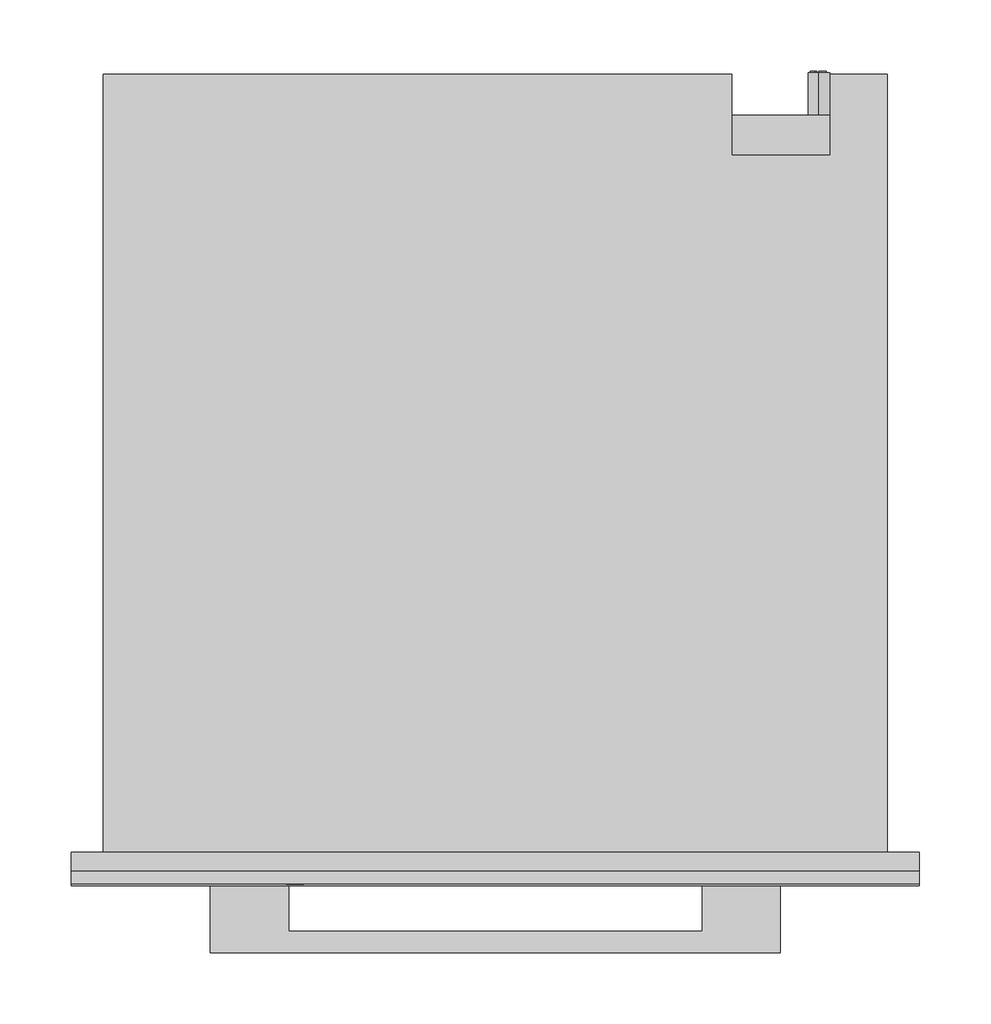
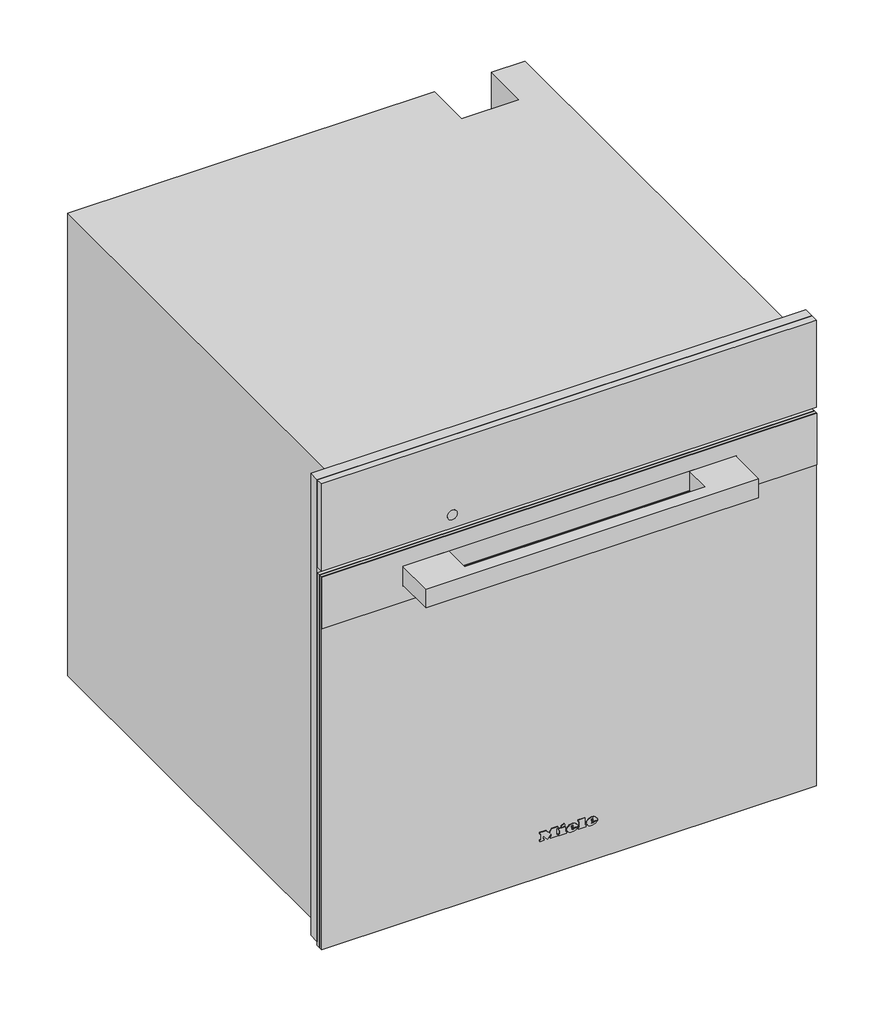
# Not in any storey: 1 proxy.
"""IFC4 building model written with IfcOpenShell, lengths in millimetres."""

import ifcopenshell
import ifcopenshell.guid

model = None  # the IFC model being written
_history = None  # IfcOwnerHistory: only IFC2X3 demands one
_inside = {}  # id of a spatial element -> (the spatial element, [elements in it])
_under = {}  # id of a project, library or spatial element -> (it, [spatial elements below it])
_declared = {}  # id of a project -> (the project, [libraries it declares])
_typed = {}  # id of a type object -> (the type object, [elements of that type])
_made_of = {}  # id of a material, layer set ... -> (it, [elements and type objects made of it])


def new_model(schema):
    """Start an empty IFC model of exactly this schema.

    Asked for "IFC4X3", IfcOpenShell would pick the latest addendum, in which some entities
    have other attributes; the version numbers below select the first issue.
    IFC2X3 requires an IfcOwnerHistory on every rooted entity: one is made here for all.
    """
    global model, _history
    if schema == "IFC4X3":
        model = ifcopenshell.file(schema_version=(4, 3, 0, 0))
    else:
        model = ifcopenshell.file(schema=schema)
    _inside.clear()
    _under.clear()
    _declared.clear()
    _typed.clear()
    _made_of.clear()
    _history = None
    if model.schema == "IFC2X3":
        org = make("IfcOrganization", Name="unknown")
        user = make(
            "IfcPersonAndOrganization",
            ThePerson=make("IfcPerson", FamilyName="unknown"),
            TheOrganization=org,
        )
        app = make(
            "IfcApplication",
            ApplicationDeveloper=org,
            Version="unknown",
            ApplicationFullName="unknown",
            ApplicationIdentifier="unknown",
        )
        _history = make(
            "IfcOwnerHistory",
            OwningUser=user,
            OwningApplication=app,
            ChangeAction="ADDED",
            CreationDate=0,
        )
    return model


def make(cls, **values):
    """One entity of the class cls with the attributes given. An attribute that is None is left unset."""
    return model.create_entity(
        cls, **{name: value for name, value in values.items() if value is not None}
    )


def rooted(cls, **values):
    """An entity with a GlobalId (a new one), such as an element, a storey or a relation."""
    return make(cls, GlobalId=ifcopenshell.guid.new(), OwnerHistory=_history, **values)


def si_unit(unit_type, name, prefix=None):
    """IfcSIUnit, for example si_unit("LENGTHUNIT", "METRE", prefix="MILLI")."""
    return make("IfcSIUnit", UnitType=unit_type, Prefix=prefix, Name=name)


def assignment(units):
    """IfcUnitAssignment: the units of a project."""
    return None if units is None else make("IfcUnitAssignment", Units=units)


def point(xyz):
    """IfcCartesianPoint."""
    return None if xyz is None else make("IfcCartesianPoint", Coordinates=xyz)


def direction(xyz):
    """IfcDirection."""
    return None if xyz is None else make("IfcDirection", DirectionRatios=xyz)


def frame(location, z_axis=None, x_axis=None):
    """IfcAxis2Placement3D, a coordinate frame: its origin and axes. An axis left out is left unset."""
    return make(
        "IfcAxis2Placement3D",
        Location=point(location),
        Axis=direction(z_axis),
        RefDirection=direction(x_axis),
    )


def frame_2d(location, x_axis=None):
    """IfcAxis2Placement2D, a coordinate frame in the plane: its origin and x axis."""
    return make(
        "IfcAxis2Placement2D", Location=point(location), RefDirection=direction(x_axis)
    )


def origin():
    """The frame at (0, 0, 0) with its axes left unset."""
    return frame((0.0, 0.0, 0.0))


def place(relative_to, where):
    """IfcLocalPlacement: puts the frame where relative to a parent placement (None: the world)."""
    return make(
        "IfcLocalPlacement", PlacementRelTo=relative_to, RelativePlacement=where
    )


def context(
    kind, dimensions, precision=None, world=None, true_north=None, identifier=None
):
    """IfcGeometricRepresentationContext, for example the 3D "Model" context."""
    return make(
        "IfcGeometricRepresentationContext",
        ContextIdentifier=identifier,
        ContextType=kind,
        CoordinateSpaceDimension=dimensions,
        Precision=precision,
        WorldCoordinateSystem=world,
        TrueNorth=true_north,
    )


def project(units=None, contexts=None):
    """IfcProject with its units and contexts."""
    return rooted(
        "IfcProject",
        Name="project",
        RepresentationContexts=contexts,
        UnitsInContext=assignment(units),
    )


def spatial(cls, under=None, at=None, **own):
    """A site, building, storey or space (cls), placed at a placement, below another one or the project."""
    s = rooted(cls, ObjectPlacement=at, **own)
    if under is not None:
        _under.setdefault(under.id(), (under, []))[1].append(s)
    return s


def polyline(points):
    """IfcPolyline through the points."""
    return make("IfcPolyline", Points=[point(p) for p in points])


def circle_curve(where, radius):
    """IfcCircle in the frame where."""
    return make("IfcCircle", Position=where, Radius=radius)


def ellipse_curve(where, semi_axis1, semi_axis2):
    """IfcEllipse in the frame where."""
    return make(
        "IfcEllipse", Position=where, SemiAxis1=semi_axis1, SemiAxis2=semi_axis2
    )


def trimmed(basis, trim1, trim2, sense, master):
    """IfcTrimmedCurve: the piece of a basis curve between two trims."""
    return make(
        "IfcTrimmedCurve",
        BasisCurve=basis,
        Trim1=trim1,
        Trim2=trim2,
        SenseAgreement=sense,
        MasterRepresentation=master,
    )


def segment(curve, same_sense, transition):
    """IfcCompositeCurveSegment."""
    return make(
        "IfcCompositeCurveSegment",
        Transition=transition,
        SameSense=same_sense,
        ParentCurve=curve,
    )


def composite_curve(segments, self_intersect=None):
    """IfcCompositeCurve: segments joined end to end."""
    return make("IfcCompositeCurve", Segments=segments, SelfIntersect=self_intersect)


def outline(outer, holes=None, kind="AREA"):
    """IfcArbitraryClosedProfileDef: a profile drawn as a closed curve; with holes, ...WithVoids."""
    if holes is None:
        return make("IfcArbitraryClosedProfileDef", ProfileType=kind, OuterCurve=outer)
    return make(
        "IfcArbitraryProfileDefWithVoids",
        ProfileType=kind,
        OuterCurve=outer,
        InnerCurves=holes,
    )


def extrude(swept, where, along, depth):
    """IfcExtrudedAreaSolid: the profile swept, set in the frame where, extruded along a direction by depth."""
    return make(
        "IfcExtrudedAreaSolid",
        SweptArea=swept,
        Position=where,
        ExtrudedDirection=direction(along),
        Depth=depth,
    )


def faces_of(points, faces, orient=None, outer=None):
    """IfcFace entities. A face is a list of loops; a loop is a list of indices into points, from 0.

    orient and outer hold one flag for each loop. By default every Orientation is true, the
    first loop of a face is its IfcFaceOuterBound and the others are IfcFaceBound.
    """
    made = []
    for i, loops in enumerate(faces):
        bounds = []
        for j, loop in enumerate(loops):
            is_outer = j == 0 if outer is None else outer[i][j]
            bounds.append(
                make(
                    "IfcFaceOuterBound" if is_outer else "IfcFaceBound",
                    Bound=make("IfcPolyLoop", Polygon=[points[k] for k in loop]),
                    Orientation=True if orient is None else orient[i][j],
                )
            )
        made.append(make("IfcFace", Bounds=bounds))
    return made


def faceted_brep(points, faces, orient=None, outer=None, voids=None):
    """IfcFacetedBrep: a solid bounded by flat faces; with voids (closed shells), ...WithVoids."""
    shared = [point(p) for p in points]
    hull = make("IfcClosedShell", CfsFaces=faces_of(shared, faces, orient, outer))
    if voids is None:
        return make("IfcFacetedBrep", Outer=hull)
    return make(
        "IfcFacetedBrepWithVoids",
        Outer=hull,
        Voids=[
            make(cls, CfsFaces=faces_of(shared, fs, o, b)) for cls, fs, o, b in voids
        ],
    )


def shape(context_of_items, identifier, shape_type, items):
    """IfcShapeRepresentation: the items that make up one representation, for example the "Body"."""
    return make(
        "IfcShapeRepresentation",
        ContextOfItems=context_of_items,
        RepresentationIdentifier=identifier,
        RepresentationType=shape_type,
        Items=items,
    )


def source(mapping_origin, context_of_items, identifier, shape_type, items):
    """IfcRepresentationMap: a shape defined once, which mapped items show again and again."""
    return make(
        "IfcRepresentationMap",
        MappingOrigin=mapping_origin,
        MappedRepresentation=shape(context_of_items, identifier, shape_type, items),
    )


def transform(
    local_origin,
    x_axis=None,
    y_axis=None,
    z_axis=None,
    scale=None,
    scale2=None,
    scale3=None,
    uniform=True,
):
    """IfcCartesianTransformationOperator3D, or its non-uniform kind. x_axis, y_axis, z_axis: its Axis1, 2, 3."""
    if uniform:
        return make(
            "IfcCartesianTransformationOperator3D",
            Axis1=direction(x_axis),
            Axis2=direction(y_axis),
            LocalOrigin=point(local_origin),
            Scale=scale,
            Axis3=direction(z_axis),
        )
    return make(
        "IfcCartesianTransformationOperator3DnonUniform",
        Axis1=direction(x_axis),
        Axis2=direction(y_axis),
        LocalOrigin=point(local_origin),
        Scale=scale,
        Axis3=direction(z_axis),
        Scale2=scale2,
        Scale3=scale3,
    )


def mapped(mapping_source, mapping_target):
    """IfcMappedItem: shows the shape of a source again, moved by a transform."""
    return make(
        "IfcMappedItem", MappingSource=mapping_source, MappingTarget=mapping_target
    )


def made_of(thing, what):
    """Note that an element or type object is made of a material, layer set ...; save() writes the relation."""
    if what is not None:
        _made_of.setdefault(what.id(), (what, []))[1].append(thing)
    return thing


def element(
    cls,
    number,
    at=None,
    inside=None,
    cuts=None,
    type_object=None,
    material=None,
    context=None,
    identifier="Body",
    shape_type=None,
    held_by="IfcProductDefinitionShape",
    body=None,
    shapes=None,
    **own,
):
    """One element of the class cls, such as IfcWall. Its Tag is "e" and its number.

    at: its placement. inside: the storey or other place that contains it. cuts: it is an
    opening in that element (IfcRelVoidsElement). A single representation is given by context,
    identifier, shape_type and body (its items); several are given by shapes. held_by: the class
    of the entity that holds the representations. save() writes the other relations.
    """
    e = rooted(cls, Tag="e%d" % number, ObjectPlacement=at, **own)
    if body is not None:
        shapes = [shape(context, identifier, shape_type, body)]
    if shapes is not None:
        e.Representation = make(held_by, Representations=shapes)
    if inside is not None:
        _inside.setdefault(inside.id(), (inside, []))[1].append(e)
    if cuts is not None:
        rooted(
            "IfcRelVoidsElement", RelatingBuildingElement=cuts, RelatedOpeningElement=e
        )
    if type_object is not None:
        _typed.setdefault(type_object.id(), (type_object, []))[1].append(e)
    return made_of(e, material)


def aggregate(whole, parts):
    """IfcRelAggregates: a whole, such as a stair, and the parts it consists of."""
    return rooted("IfcRelAggregates", RelatingObject=whole, RelatedObjects=parts)


def save(model, path):
    """Write the relations noted so far, then the file.

    IfcRelAggregates (storeys below a building ...), IfcRelContainedInSpatialStructure (elements
    in a storey), IfcRelDefinesByType, IfcRelAssociatesMaterial and IfcRelDeclares: one each for
    every whole, place, type object, material and project.
    """
    for whole, parts in _under.values():
        aggregate(whole, parts)
    for where, things in _inside.values():
        rooted(
            "IfcRelContainedInSpatialStructure",
            RelatedElements=things,
            RelatingStructure=where,
        )
    for kind, things in _typed.values():
        rooted("IfcRelDefinesByType", RelatedObjects=things, RelatingType=kind)
    for what, things in _made_of.values():
        rooted("IfcRelAssociatesMaterial", RelatedObjects=things, RelatingMaterial=what)
    for by, libraries in _declared.values():
        rooted("IfcRelDeclares", RelatingContext=by, RelatedDefinitions=libraries)
    model.write(path)


def plane_surface(at):
    """IfcPlane: the flat surface through the origin of the frame at, square to its z axis."""
    return make("IfcPlane", Position=at)


def cylinder_surface(at, radius):
    """IfcCylindricalSurface: all points at the distance radius from the z axis of the frame at."""
    return make("IfcCylindricalSurface", Position=at, Radius=radius)


def revolved_surface(curve, axis_point, axis_direction):
    """IfcSurfaceOfRevolution: the curve turned about the line through axis_point along axis_direction."""
    return make(
        "IfcSurfaceOfRevolution",
        SweptCurve=make("IfcArbitraryOpenProfileDef", ProfileType="CURVE", Curve=curve),
        AxisPosition=make("IfcAxis1Placement", Location=point(axis_point), Axis=direction(axis_direction)),
    )


def extruded_surface(curve, direction_of_extrusion, depth):
    """IfcSurfaceOfLinearExtrusion: the curve pushed along a direction by depth."""
    return make(
        "IfcSurfaceOfLinearExtrusion",
        SweptCurve=make("IfcArbitraryOpenProfileDef", ProfileType="CURVE", Curve=curve),
        ExtrudedDirection=direction(direction_of_extrusion),
        Depth=depth,
    )


def advanced_brep(points, edges, surfaces, faces):
    """IfcAdvancedBrep: a solid bounded by faces that lie on surfaces and meet in shared edges.

    An edge is (start, end): straight between two places in points (the first is 0);
    or (start, end, curve); or (start, end, curve, False) where it runs against its curve.
    A face is (place in surfaces, loops), or (place, loops, False) where it looks against
    its surface's normal. A loop lists edges by number (the first is 1), with a minus sign
    where the edge is run from its end to its start. The first loop is the outer one.
    """
    corners = [point(p) for p in points]
    vertices = [make("IfcVertexPoint", VertexGeometry=c) for c in corners]
    made = []
    for start, end, *more in edges:
        made.append(
            make(
                "IfcEdgeCurve",
                EdgeStart=vertices[start],
                EdgeEnd=vertices[end],
                EdgeGeometry=more[0] if more else make("IfcPolyline", Points=[corners[start], corners[end]]),
                SameSense=more[1] if len(more) > 1 else True,
            )
        )
    hull = []
    for where, loops, *sense in faces:
        bounds = []
        for j, loop in enumerate(loops):
            ring = [make("IfcOrientedEdge", EdgeElement=made[abs(k) - 1], Orientation=k > 0) for k in loop]
            bounds.append(
                make(
                    "IfcFaceOuterBound" if j == 0 else "IfcFaceBound",
                    Bound=make("IfcEdgeLoop", EdgeList=ring),
                    Orientation=True,
                )
            )
        hull.append(make("IfcAdvancedFace", Bounds=bounds, FaceSurface=surfaces[where], SameSense=sense[0] if sense else True))
    return make("IfcAdvancedBrep", Outer=make("IfcClosedShell", CfsFaces=hull))


def specialty_equipment_704f67a2(model_context):
    return source(origin(), model_context, "Body", "SolidModel", [
        extrude(outline(polyline([(596.0, 297.5), (596.0, -297.5), (9.0, -297.5), (9.0, 297.5), (596.0, 297.5)]), holes=[polyline([(485.0, -272.5), (485.0, 272.5), (27.0, 272.5), (27.0, -272.5), (485.0, -272.5)])]), frame((0.0, -13.0, 0.0), z_axis=(0.0, 1.0, 0.0), x_axis=(0.0, 0.0, 1.0)), (0.0, 0.0, 1.0), 13.0),
        advanced_brep(
        [(227.0, 547.0, 396.5), (227.0, 547.0, 381.5), (221.4098301, 547.0, 384.0), (225.5, 547.0, 384.0), (225.5, 547.0, 394.0), (224.4955303, 547.0, 394.0), (224.4955303, 547.0, 385.0), (221.0315043, 547.0, 385.0), (221.0315043, 547.0, 384.4582978), (232.0, 547.0, 384.0), (232.0, 547.0, 394.0), (227.0, 547.0, 394.0), (227.0, 547.0, 393.0), (231.0, 547.0, 393.0), (231.0, 547.0, 389.5), (228.0, 547.0, 389.5), (228.0, 547.0, 388.5), (231.0, 547.0, 388.5), (231.0, 547.0, 385.0), (227.0, 547.0, 385.0), (227.0, 547.0, 384.0), (227.0, 517.0, 381.5), (227.0, 517.0, 396.5), (232.0, 548.0, 394.0), (232.0, 548.0, 384.0), (227.0, 548.0, 384.0), (227.0, 548.0, 385.0), (231.0, 548.0, 385.0), (231.0, 548.0, 388.5), (228.0, 548.0, 388.5), (228.0, 548.0, 389.5), (231.0, 548.0, 389.5), (231.0, 548.0, 393.0), (227.0, 548.0, 393.0), (227.0, 548.0, 394.0), (225.5, 548.0, 384.0), (221.0315043, 548.0, 384.0), (221.0315043, 548.0, 385.0), (224.4955303, 548.0, 385.0), (224.4955303, 548.0, 394.0), (225.5, 548.0, 394.0), (221.0315043, 547.0, 384.0)],
        [
            (0, 1, circle_curve(frame((227.0, 547.0, 389.0), z_axis=(0.0, 1.0, 0.0), x_axis=(0.0, 0.0, 1.0)), 7.5)),
            (1, 2, circle_curve(frame((227.0, 547.0, 389.0), z_axis=(0.0, 1.0, 0.0), x_axis=(0.0, 0.0, 1.0)), 7.5)),
            (2, 3),
            (3, 4),
            (4, 5),
            (5, 6),
            (6, 7),
            (7, 8),
            (8, 0, circle_curve(frame((227.0, 547.0, 389.0), z_axis=(0.0, 1.0, 0.0), x_axis=(0.0, 0.0, 1.0)), 7.5)),
            (9, 10),
            (10, 11),
            (11, 12),
            (12, 13),
            (13, 14),
            (14, 15),
            (15, 16),
            (16, 17),
            (17, 18),
            (18, 19),
            (19, 20),
            (20, 9),
            (21, 22, circle_curve(frame((227.0, 517.0, 389.0), z_axis=(0.0, -1.0, 0.0), x_axis=(0.0, 0.0, 1.0)), 7.5)),
            (22, 21, circle_curve(frame((227.0, 517.0, 389.0), z_axis=(0.0, -1.0, 0.0), x_axis=(0.0, 0.0, 1.0)), 7.5)),
            (0, 22),
            (21, 1),
            (8, 2, circle_curve(frame((227.0, 547.0, 389.0), z_axis=(0.0, -1.0, 0.0), x_axis=(0.0, 0.0, 1.0)), 7.5)),
            (23, 24),
            (24, 25),
            (25, 26),
            (26, 27),
            (27, 28),
            (28, 29),
            (29, 30),
            (30, 31),
            (31, 32),
            (32, 33),
            (33, 34),
            (34, 23),
            (35, 36),
            (36, 37),
            (37, 38),
            (38, 39),
            (39, 40),
            (40, 35),
            (8, 41),
            (41, 2),
            (23, 10),
            (9, 24),
            (20, 25),
            (19, 26),
            (18, 27),
            (17, 28),
            (16, 29),
            (15, 30),
            (14, 31),
            (13, 32),
            (12, 33),
            (11, 34),
            (35, 3),
            (41, 36),
            (7, 37),
            (6, 38),
            (5, 39),
            (4, 40),
        ],
        [
            plane_surface(frame((227.0, 547.0, 396.5), z_axis=(0.0, 1.0, 0.0), x_axis=(1.0, 0.0, 0.0))),
            plane_surface(frame((227.0, 517.0, 396.5), z_axis=(0.0, -1.0, 0.0), x_axis=(-1.0, 0.0, 0.0))),
            cylinder_surface(frame((227.0, 547.0, 389.0), z_axis=(0.0, -1.0, 0.0), x_axis=(0.0, 0.0, 1.0)), 7.5),
            plane_surface(frame((232.0, 548.0, 394.0), z_axis=(0.0, 1.0, 0.0), x_axis=(0.0, 0.0, -1.0))),
            plane_surface(frame((232.0, 547.0, 394.0), z_axis=(0.0, -1.0, 0.0), x_axis=(0.0, 0.0, 1.0))),
            plane_surface(frame((232.0, 548.0, 394.0), z_axis=(1.0, 0.0, 0.0), x_axis=(0.0, -1.0, 0.0))),
            plane_surface(frame((232.0, 548.0, 384.0), z_axis=(0.0, 0.0, -1.0), x_axis=(0.0, -1.0, 0.0))),
            plane_surface(frame((227.0, 548.0, 384.0), z_axis=(-1.0, 0.0, 0.0), x_axis=(0.0, -1.0, 0.0))),
            plane_surface(frame((227.0, 548.0, 385.0), z_axis=(0.0, 0.0, 1.0), x_axis=(0.0, -1.0, 0.0))),
            plane_surface(frame((231.0, 548.0, 385.0), z_axis=(-1.0, 0.0, 0.0), x_axis=(0.0, -1.0, 0.0))),
            plane_surface(frame((231.0, 548.0, 388.5), z_axis=(0.0, 0.0, -1.0), x_axis=(0.0, -1.0, 0.0))),
            plane_surface(frame((228.0, 548.0, 388.5), z_axis=(-1.0, 0.0, 0.0), x_axis=(0.0, -1.0, 0.0))),
            plane_surface(frame((228.0, 548.0, 389.5), z_axis=(0.0, 0.0, 1.0), x_axis=(0.0, -1.0, 0.0))),
            plane_surface(frame((231.0, 548.0, 389.5), z_axis=(-1.0, 0.0, 0.0), x_axis=(0.0, -1.0, 0.0))),
            plane_surface(frame((231.0, 548.0, 393.0), z_axis=(0.0, 0.0, -1.0), x_axis=(0.0, -1.0, 0.0))),
            plane_surface(frame((227.0, 548.0, 393.0), z_axis=(-1.0, 0.0, 0.0), x_axis=(0.0, -1.0, 0.0))),
            plane_surface(frame((227.0, 548.0, 394.0), z_axis=(0.0, 0.0, 1.0), x_axis=(0.0, -1.0, 0.0))),
            plane_surface(frame((225.5, 548.0, 384.0), z_axis=(0.0, 0.0, -1.0), x_axis=(0.0, -1.0, 0.0))),
            plane_surface(frame((221.0315043, 548.0, 384.0), z_axis=(-1.0, 0.0, 0.0), x_axis=(0.0, -1.0, 0.0))),
            plane_surface(frame((221.0315043, 548.0, 385.0), z_axis=(0.0, 0.0, 1.0), x_axis=(0.0, -1.0, 0.0))),
            plane_surface(frame((224.4955303, 548.0, 385.0), z_axis=(-1.0, 0.0, 0.0), x_axis=(0.0, -1.0, 0.0))),
            plane_surface(frame((224.4955303, 548.0, 394.0), z_axis=(0.0, 0.0, 1.0), x_axis=(0.0, -1.0, 0.0))),
            plane_surface(frame((225.5, 548.0, 394.0), z_axis=(1.0, 0.0, 0.0), x_axis=(0.0, -1.0, 0.0))),
        ],
        [
            (0, [[1, 2, 3, 4, 5, 6, 7, 8, 9], [10, 11, 12, 13, 14, 15, 16, 17, 18, 19, 20, 21]]),
            (1, [[22, 23]]),
            (2, [[-1, 24, -22, 25]]),
            (2, [[-23, -24, -9, 26, -2, -25]]),
            (3, [[27, 28, 29, 30, 31, 32, 33, 34, 35, 36, 37, 38]]),
            (3, [[39, 40, 41, 42, 43, 44]]),
            (4, [[45, 46, -26]]),
            (5, [[-27, 47, -10, 48]]),
            (6, [[-28, -48, -21, 49]]),
            (7, [[-29, -49, -20, 50]]),
            (8, [[-30, -50, -19, 51]]),
            (9, [[-31, -51, -18, 52]]),
            (10, [[-32, -52, -17, 53]]),
            (11, [[-33, -53, -16, 54]]),
            (12, [[-34, -54, -15, 55]]),
            (13, [[-35, -55, -14, 56]]),
            (14, [[-36, -56, -13, 57]]),
            (15, [[-37, -57, -12, 58]]),
            (16, [[-38, -58, -11, -47]]),
            (17, [[-39, 59, -3, -46, 60]]),
            (18, [[-40, -60, -45, -8, 61]]),
            (19, [[-41, -61, -7, 62]]),
            (20, [[-42, -62, -6, 63]]),
            (21, [[-43, -63, -5, 64]]),
            (22, [[-44, -64, -4, -59]]),
        ],
    ),
        faceted_brep([(-275.0, 546.0, 0.0), (-275.0, 546.0, 588.0), (166.0, 546.0, 588.0), (166.0, 546.0, 0.0), (235.0, 546.0, 588.0), (275.0, 546.0, 588.0), (275.0, 546.0, 478.0), (235.0, 546.0, 478.0), (275.0, 0.0, 588.0), (-275.0, 0.0, 588.0), (-275.0, 0.0, 0.0), (275.0, 0.0, 0.0), (-272.5, 0.0, 485.0), (272.5, 0.0, 485.0), (272.5, 0.0, 27.0), (-272.5, 0.0, 27.0), (235.0, 489.0, 588.0), (166.0, 489.0, 588.0), (166.0, 517.0, 0.0), (275.0, 517.0, 0.0), (275.0, 517.0, 478.0), (272.5, 17.0, 485.0), (-272.5, 17.0, 485.0), (-272.5, 17.0, 27.0), (272.5, 17.0, 27.0), (231.0, 17.0, 409.0), (231.0, 17.0, 61.0), (-231.0, 17.0, 61.0), (-231.0, 17.0, 409.0), (231.0, 411.0, 409.0), (-231.0, 411.0, 409.0), (-231.0, 411.0, 61.0), (231.0, 411.0, 61.0), (235.0, 489.0, 477.0), (166.0, 489.0, 477.0), (166.0, 517.0, 477.0), (235.0, 517.0, 477.0), (235.0, 517.0, 478.0)], [[[0, 1, 2, 3]], [[4, 5, 6, 7]], [[8, 9, 10, 11], [12, 13, 14, 15]], [[9, 8, 5, 4, 16, 17, 2, 1]], [[1, 0, 10, 9]], [[11, 10, 0, 3, 18, 19]], [[8, 11, 19, 20, 6, 5]], [[21, 22, 23, 24], [25, 26, 27, 28]], [[22, 21, 13, 12]], [[23, 22, 12, 15]], [[24, 23, 15, 14]], [[21, 24, 14, 13]], [[29, 30, 31, 32]], [[29, 32, 26, 25]], [[32, 31, 27, 26]], [[31, 30, 28, 27]], [[30, 29, 25, 28]], [[16, 33, 34, 17]], [[17, 34, 35, 18, 3, 2]], [[34, 33, 36, 35]], [[33, 16, 4, 7, 37, 36]], [[37, 20, 19, 18, 35, 36]], [[20, 37, 7, 6]]]),
        advanced_brep(
        [(26.2998, -23.0, 52.7018), (26.2998, -23.0, 53.8532), (33.9264, -23.0, 53.8532), (20.6568, -23.0, 53.8532), (23.7918, -23.0, 50.0), (33.7326, -23.0, 52.7018), (30.2898, -23.0, 52.7018), (27.5766, -23.0, 51.425), (26.2998, -23.0, 55.3124), (26.2998, -23.0, 56.555), (28.2492, -23.0, 56.555), (28.2492, -23.0, 55.3124), (26.2998, -22.0, 52.7018), (27.5766, -22.0, 51.425), (30.2898, -22.0, 52.7018), (33.7326, -22.0, 52.7018), (23.7918, -22.0, 50.0), (20.6568, -22.0, 53.8532), (33.9264, -22.0, 53.8532), (26.2998, -22.0, 53.8532), (26.2998, -22.0, 55.3124), (28.2492, -22.0, 55.3124), (28.2492, -22.0, 56.555), (26.2998, -22.0, 56.555)],
        [
            (0, 1),
            (1, 2),
            (2, 3, ellipse_curve(frame((27.2916, -23.0, 53.8532), z_axis=(0.0, -1.0, 0.0), x_axis=(-1.0, 0.0, 0.0)), 6.6348, 5.4834)),
            (3, 4, circle_curve(frame((25.0686622, -23.0, 54.2408), z_axis=(0.0, -1.0, 0.0), x_axis=(0.0, 0.0, -1.0)), 4.4288556)),
            (4, 5, circle_curve(frame((27.1587808, -23.0, 57.2504), z_axis=(0.0, -1.0, 0.0), x_axis=(0.0, 0.0, -1.0)), 7.9940516)),
            (5, 6),
            (6, 7, circle_curve(frame((28.1338588, -23.0, 53.762), z_axis=(0.0, 1.0, 0.0), x_axis=(0.0, 0.0, -1.0)), 2.4025208)),
            (7, 0, circle_curve(frame((27.5766, -23.0, 52.7018), z_axis=(0.0, 1.0, 0.0), x_axis=(0.0, 0.0, -1.0)), 1.2768)),
            (8, 9),
            (9, 10, circle_curve(frame((27.2745, -23.0, 56.555), z_axis=(0.0, 1.0, 0.0), x_axis=(0.0, 0.0, -1.0)), 0.9747)),
            (10, 11),
            (11, 8),
            (12, 13, circle_curve(frame((27.5766, -22.0, 52.7018), z_axis=(0.0, -1.0, 0.0), x_axis=(0.0, 0.0, -1.0)), 1.2768)),
            (13, 14, circle_curve(frame((28.1338588, -22.0, 53.762), z_axis=(0.0, -1.0, 0.0), x_axis=(0.0, 0.0, -1.0)), 2.4025208)),
            (14, 15),
            (15, 16, circle_curve(frame((27.1587808, -22.0, 57.2504), z_axis=(0.0, 1.0, 0.0), x_axis=(0.0, 0.0, -1.0)), 7.9940516)),
            (16, 17, circle_curve(frame((25.0686622, -22.0, 54.2408), z_axis=(0.0, 1.0, 0.0), x_axis=(0.0, 0.0, -1.0)), 4.4288556)),
            (17, 18, ellipse_curve(frame((27.2916, -22.0, 53.8532), z_axis=(0.0, 1.0, 0.0), x_axis=(-1.0, 0.0, 0.0)), 6.6348, 5.4834)),
            (18, 19),
            (19, 12),
            (20, 21),
            (21, 22),
            (22, 23, circle_curve(frame((27.2745, -22.0, 56.555), z_axis=(0.0, -1.0, 0.0), x_axis=(0.0, 0.0, -1.0)), 0.9747)),
            (23, 20),
            (0, 12),
            (19, 1),
            (18, 2),
            (5, 15),
            (14, 6),
            (17, 3),
            (13, 7),
            (16, 4),
            (8, 20),
            (23, 9),
            (22, 10),
            (21, 11),
        ],
        [
            plane_surface(frame((26.2998, -23.0, 53.8532), z_axis=(0.0, -1.0, 0.0), x_axis=(0.0, 0.0, 1.0))),
            plane_surface(frame((26.2998, -22.0, 53.8532), z_axis=(0.0, 1.0, 0.0), x_axis=(0.0, 0.0, -1.0))),
            plane_surface(frame((26.2998, -23.0, 52.7018), z_axis=(1.0, 0.0, 0.0), x_axis=(0.0, 1.0, 0.0))),
            plane_surface(frame((26.2998, -23.0, 53.8532), z_axis=(0.0, 0.0, -1.0), x_axis=(0.0, 1.0, 0.0))),
            plane_surface(frame((33.7326, -23.0, 52.7018), z_axis=(0.0, 0.0, 1.0), x_axis=(0.0, 1.0, 0.0))),
            extruded_surface(trimmed(ellipse_curve(frame((27.2916, -21.0, 53.8532), z_axis=(0.0, -1.0, 0.0), x_axis=(-1.0, 0.0, 0.0)), 6.6348, 5.4834), [point((33.9264, -21.0, 53.8532))], [point((20.6568, -21.0, 53.8532))], True, "CARTESIAN"), (0.0, -1.0, 0.0), 1.0),
            revolved_surface(polyline([(28.1338588, -22.0, 51.3594792), (28.1338588, -23.0, 51.3594792)]), (28.1338588, -22.0, 53.762), (0.0, 1.0, 0.0)),
            revolved_surface(polyline([(27.5766, -22.0, 51.425), (27.5766, -23.0, 51.425)]), (27.5766, -22.0, 52.7018), (0.0, 1.0, 0.0)),
            cylinder_surface(frame((25.0686622, -22.0, 54.2408), z_axis=(0.0, -1.0, 0.0), x_axis=(0.0, 0.0, -1.0)), 4.4288556),
            cylinder_surface(frame((27.1587808, -22.0, 57.2504), z_axis=(0.0, -1.0, 0.0), x_axis=(0.0, 0.0, -1.0)), 7.9940516),
            plane_surface(frame((26.2998, -23.0, 55.3124), z_axis=(1.0, 0.0, 0.0), x_axis=(0.0, 1.0, 0.0))),
            revolved_surface(polyline([(27.2745, -22.0, 55.5803), (27.2745, -23.0, 55.5803)]), (27.2745, -22.0, 56.555), (0.0, 1.0, 0.0)),
            plane_surface(frame((28.2492, -23.0, 56.555), z_axis=(-1.0, 0.0, 0.0), x_axis=(0.0, 1.0, 0.0))),
            plane_surface(frame((28.2492, -23.0, 55.3124), z_axis=(0.0, 0.0, 1.0), x_axis=(0.0, 1.0, 0.0))),
        ],
        [
            (0, [[1, 2, 3, 4, 5, 6, 7, 8], [9, 10, 11, 12]]),
            (1, [[13, 14, 15, 16, 17, 18, 19, 20], [21, 22, 23, 24]]),
            (2, [[-1, 25, -20, 26]]),
            (3, [[-2, -26, -19, 27]]),
            (4, [[-6, 28, -15, 29]]),
            (5, [[-3, -27, -18, 30]]),
            (6, [[-7, -29, -14, 31]]),
            (7, [[-8, -31, -13, -25]]),
            (8, [[-4, -30, -17, 32]]),
            (9, [[-5, -32, -16, -28]]),
            (10, [[-9, 33, -24, 34]]),
            (11, [[-10, -34, -23, 35]]),
            (12, [[-11, -35, -22, 36]]),
            (13, [[-12, -36, -21, -33]]),
        ],
    ),
        advanced_brep(
        [(2.508, -23.0, 52.7018), (2.508, -23.0, 53.8532), (10.1346, -23.0, 53.8532), (-3.135, -23.0, 53.8532), (0.0, -23.0, 50.0), (9.9408, -23.0, 52.7018), (6.498, -23.0, 52.7018), (3.7848, -23.0, 51.425), (2.508, -23.0, 55.3124), (2.508, -23.0, 56.555), (4.4574, -23.0, 56.555), (4.4574, -23.0, 55.3124), (2.508, -22.0, 52.7018), (3.7848, -22.0, 51.425), (6.498, -22.0, 52.7018), (9.9408, -22.0, 52.7018), (0.0, -22.0, 50.0), (-3.135, -22.0, 53.8532), (10.1346, -22.0, 53.8532), (2.508, -22.0, 53.8532), (2.508, -22.0, 55.3124), (4.4574, -22.0, 55.3124), (4.4574, -22.0, 56.555), (2.508, -22.0, 56.555)],
        [
            (0, 1),
            (1, 2),
            (2, 3, ellipse_curve(frame((3.4998, -23.0, 53.8532), z_axis=(0.0, -1.0, 0.0), x_axis=(-1.0, 0.0, 0.0)), 6.6348, 5.4834)),
            (3, 4, circle_curve(frame((1.2768622, -23.0, 54.2408), z_axis=(0.0, -1.0, 0.0), x_axis=(0.0, 0.0, -1.0)), 4.4288556)),
            (4, 5, circle_curve(frame((3.3669808, -23.0, 57.2504), z_axis=(0.0, -1.0, 0.0), x_axis=(0.0, 0.0, -1.0)), 7.9940516)),
            (5, 6),
            (6, 7, circle_curve(frame((4.3420588, -23.0, 53.762), z_axis=(0.0, 1.0, 0.0), x_axis=(0.0, 0.0, -1.0)), 2.4025208)),
            (7, 0, circle_curve(frame((3.7848, -23.0, 52.7018), z_axis=(0.0, 1.0, 0.0), x_axis=(0.0, 0.0, -1.0)), 1.2768)),
            (8, 9),
            (9, 10, circle_curve(frame((3.4827, -23.0, 56.555), z_axis=(0.0, 1.0, 0.0), x_axis=(0.0, 0.0, -1.0)), 0.9747)),
            (10, 11),
            (11, 8),
            (12, 13, circle_curve(frame((3.7848, -22.0, 52.7018), z_axis=(0.0, -1.0, 0.0), x_axis=(0.0, 0.0, -1.0)), 1.2768)),
            (13, 14, circle_curve(frame((4.3420588, -22.0, 53.762), z_axis=(0.0, -1.0, 0.0), x_axis=(0.0, 0.0, -1.0)), 2.4025208)),
            (14, 15),
            (15, 16, circle_curve(frame((3.3669808, -22.0, 57.2504), z_axis=(0.0, 1.0, 0.0), x_axis=(0.0, 0.0, -1.0)), 7.9940516)),
            (16, 17, circle_curve(frame((1.2768622, -22.0, 54.2408), z_axis=(0.0, 1.0, 0.0), x_axis=(0.0, 0.0, -1.0)), 4.4288556)),
            (17, 18, ellipse_curve(frame((3.4998, -22.0, 53.8532), z_axis=(0.0, 1.0, 0.0), x_axis=(-1.0, 0.0, 0.0)), 6.6348, 5.4834)),
            (18, 19),
            (19, 12),
            (20, 21),
            (21, 22),
            (22, 23, circle_curve(frame((3.4827, -22.0, 56.555), z_axis=(0.0, -1.0, 0.0), x_axis=(0.0, 0.0, -1.0)), 0.9747)),
            (23, 20),
            (0, 12),
            (19, 1),
            (18, 2),
            (5, 15),
            (14, 6),
            (17, 3),
            (13, 7),
            (16, 4),
            (8, 20),
            (23, 9),
            (22, 10),
            (21, 11),
        ],
        [
            plane_surface(frame((2.508, -23.0, 53.8532), z_axis=(0.0, -1.0, 0.0), x_axis=(0.0, 0.0, 1.0))),
            plane_surface(frame((2.508, -22.0, 53.8532), z_axis=(0.0, 1.0, 0.0), x_axis=(0.0, 0.0, -1.0))),
            plane_surface(frame((2.508, -23.0, 52.7018), z_axis=(1.0, 0.0, 0.0), x_axis=(0.0, 1.0, 0.0))),
            plane_surface(frame((2.508, -23.0, 53.8532), z_axis=(0.0, 0.0, -1.0), x_axis=(0.0, 1.0, 0.0))),
            plane_surface(frame((9.9408, -23.0, 52.7018), z_axis=(0.0, 0.0, 1.0), x_axis=(0.0, 1.0, 0.0))),
            extruded_surface(trimmed(ellipse_curve(frame((3.4998, -21.0, 53.8532), z_axis=(0.0, -1.0, 0.0), x_axis=(-1.0, 0.0, 0.0)), 6.6348, 5.4834), [point((10.1346, -21.0, 53.8532))], [point((-3.135, -21.0, 53.8532))], True, "CARTESIAN"), (0.0, -1.0, 0.0), 1.0),
            revolved_surface(polyline([(4.3420588, -22.0, 51.3594792), (4.3420588, -23.0, 51.3594792)]), (4.3420588, -22.0, 53.762), (0.0, 1.0, 0.0)),
            revolved_surface(polyline([(3.7848, -22.0, 51.425), (3.7848, -23.0, 51.425)]), (3.7848, -22.0, 52.7018), (0.0, 1.0, 0.0)),
            cylinder_surface(frame((1.2768622, -22.0, 54.2408), z_axis=(0.0, -1.0, 0.0), x_axis=(0.0, 0.0, -1.0)), 4.4288556),
            cylinder_surface(frame((3.3669808, -22.0, 57.2504), z_axis=(0.0, -1.0, 0.0), x_axis=(0.0, 0.0, -1.0)), 7.9940516),
            plane_surface(frame((2.508, -23.0, 55.3124), z_axis=(1.0, 0.0, 0.0), x_axis=(0.0, 1.0, 0.0))),
            revolved_surface(polyline([(3.4827, -22.0, 55.5803), (3.4827, -23.0, 55.5803)]), (3.4827, -22.0, 56.555), (0.0, 1.0, 0.0)),
            plane_surface(frame((4.4574, -23.0, 56.555), z_axis=(-1.0, 0.0, 0.0), x_axis=(0.0, 1.0, 0.0))),
            plane_surface(frame((4.4574, -23.0, 55.3124), z_axis=(0.0, 0.0, 1.0), x_axis=(0.0, 1.0, 0.0))),
        ],
        [
            (0, [[1, 2, 3, 4, 5, 6, 7, 8], [9, 10, 11, 12]]),
            (1, [[13, 14, 15, 16, 17, 18, 19, 20], [21, 22, 23, 24]]),
            (2, [[-1, 25, -20, 26]]),
            (3, [[-2, -26, -19, 27]]),
            (4, [[-6, 28, -15, 29]]),
            (5, [[-3, -27, -18, 30]]),
            (6, [[-7, -29, -14, 31]]),
            (7, [[-8, -31, -13, -25]]),
            (8, [[-4, -30, -17, 32]]),
            (9, [[-5, -32, -16, -28]]),
            (10, [[-9, 33, -24, 34]]),
            (11, [[-10, -34, -23, 35]]),
            (12, [[-11, -35, -22, 36]]),
            (13, [[-12, -36, -21, -33]]),
        ],
    ),
        extrude(outline(polyline([(60.7274, -9.9522), (58.8806, -9.0858), (60.6818, -5.2212), (62.5286, -6.0762), (60.7274, -9.9522)])), frame((0.0, -23.0, 0.0), z_axis=(0.0, 1.0, 0.0), x_axis=(0.0, 0.0, 1.0)), (0.0, 0.0, 1.0), 1.0),
        extrude(outline(polyline([(58.6298, -12.768), (56.5892, -12.768), (56.5892, -11.4114), (51.9152, -11.4114), (51.9152, -12.768), (50.0, -12.768), (50.0, -3.7734), (51.9152, -3.7734), (51.9152, -5.0958), (58.6298, -5.0958), (58.6298, -12.768)])), frame((0.0, -23.0, 0.0), z_axis=(0.0, 1.0, 0.0), x_axis=(0.0, 0.0, 1.0)), (0.0, 0.0, 1.0), 1.0),
        extrude(outline(polyline([(59.5418, 10.773), (59.5418, 12.141), (51.9152, 12.141), (51.9152, 10.773), (50.0, 10.773), (50.0, 20.0184), (51.9152, 20.0184), (51.9152, 18.6162), (61.4, 18.6162), (61.4, 10.773), (59.5418, 10.773)])), frame((0.0, -23.0, 0.0), z_axis=(0.0, 1.0, 0.0), x_axis=(0.0, 0.0, 1.0)), (0.0, 0.0, 1.0), 1.0),
        extrude(outline(polyline([(59.5418, -35.4882), (59.5418, -34.1088), (51.9152, -34.1088), (51.9152, -35.4882), (50.0, -35.4882), (50.0, -30.4722), (51.9152, -30.4722), (51.9152, -31.8402), (56.7429247, -31.8402), (50.0, -26.7444), (56.9402223, -21.6258), (51.9152, -21.6258), (51.9152, -23.028), (50.0, -23.028), (50.0, -13.9308), (51.9152, -13.9308), (51.9152, -15.3786), (59.5418, -15.3786), (59.5418, -13.9308), (61.4, -13.9308), (61.4, -20.8734), (57.125, -24.2022), (61.4, -27.5424), (61.4, -35.4882), (59.5418, -35.4882)])), frame((0.0, -23.0, 0.0), z_axis=(0.0, 1.0, 0.0), x_axis=(0.0, 0.0, 1.0)), (0.0, 0.0, 1.0), 1.0),
        extrude(outline(polyline([(297.5, -22.0), (-297.5, -22.0), (-297.5, -13.0), (297.5, -13.0), (297.5, -22.0)])), frame((0.0, 0.0, 485.0), z_axis=(0.0, 0.0, 1.0), x_axis=(1.0, 0.0, 0.0)), (0.0, 0.0, 1.0), 111.0),
        extrude(outline(composite_curve([segment(trimmed(circle_curve(frame_2d((502.0, -140.5745637)), 6.0), [point((502.0, -146.5745637))], [point((502.0, -134.5745637))], False, "CARTESIAN"), True, "CONTINUOUS"), segment(trimmed(circle_curve(frame_2d((502.0, -140.5745637)), 6.0), [point((502.0, -134.5745637))], [point((502.0, -146.5745637))], False, "CARTESIAN"), True, "CONTINUOUS")], self_intersect=False)), frame((0.0, -22.5, 0.0), z_axis=(0.0, 1.0, 0.0), x_axis=(0.0, 0.0, 1.0)), (0.0, 0.0, 1.0), 1.0),
        extrude(outline(polyline([(297.5, -18.0), (-297.5, -18.0), (-297.5, -13.0), (297.5, -13.0), (297.5, -18.0)])), frame((0.0, 0.0, 4.0), z_axis=(0.0, 0.0, 1.0), x_axis=(1.0, 0.0, 0.0)), (0.0, 0.0, 1.0), 474.0),
        extrude(outline(polyline([(-297.5, -18.0), (297.5, -18.0), (297.5, -22.0), (-297.5, -22.0), (-297.5, -18.0)])), frame((0.0, 0.0, 4.0), z_axis=(0.0, 0.0, 1.0), x_axis=(1.0, 0.0, 0.0)), (0.0, 0.0, 1.0), 474.0),
        extrude(outline(polyline([(-200.0, -70.3), (-200.0, -22.0), (-145.0, -22.0), (-145.0, -55.3), (145.0, -55.3), (145.0, -22.0), (200.0, -22.0), (200.0, -70.3), (-200.0, -70.3)])), frame((0.0, 0.0, 433.5), z_axis=(0.0, 0.0, 1.0), x_axis=(1.0, 0.0, 0.0)), (0.0, 0.0, 1.0), 24.0),
        extrude(outline(polyline([(478.0, 297.5), (478.0, -297.5), (413.0, -297.5), (413.0, 297.5), (478.0, 297.5)]), holes=[polyline([(458.0, -200.5), (458.0, 200.5), (433.0, 200.5), (433.0, -200.5), (458.0, -200.5)])]), frame((0.0, -23.3, 0.0), z_axis=(0.0, 1.0, 0.0), x_axis=(0.0, 0.0, 1.0)), (0.0, 0.0, 1.0), 1.3),
    ])


model = new_model("IFC4")

# Units and contexts
model_context = context("Model", 3, world=origin())
ifc_project = project(units=[si_unit("LENGTHUNIT", "METRE", prefix="MILLI")], contexts=[model_context])

# Site, building
site = spatial("IfcSite", under=ifc_project)
building = spatial("IfcBuilding", under=site)

# Proxy
placement = place(None, origin())
specialty_equipment_shape = specialty_equipment_704f67a2(model_context)
element("IfcBuildingElementProxy", 1, Name="12099700_D_DGC7460HCPro_EDST-C : 23746049_D_12099700_DGC7460HCPro_EDST-C", ObjectType="12099700_D_DGC7460HCPro_EDST-C : 23746049_D_12099700_DGC7460HCPro_EDST-C", at=placement, inside=building, context=model_context, shape_type="MappedRepresentation", body=[
    mapped(specialty_equipment_shape, transform((0.0, 0.0, 0.0), x_axis=(1.0, 0.0, 0.0), y_axis=(0.0, 1.0, 0.0), z_axis=(0.0, 0.0, 1.0))),
])

save(model, "model.ifc")
